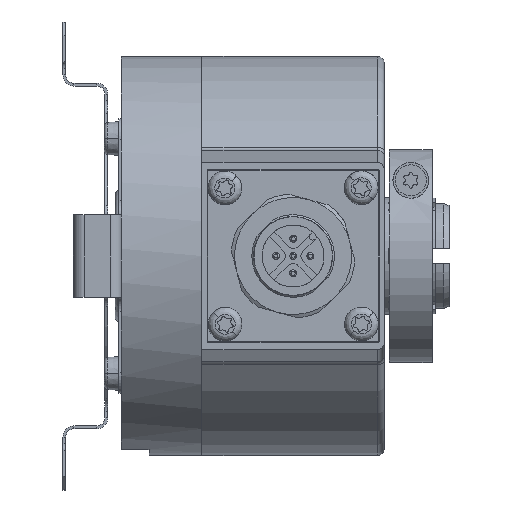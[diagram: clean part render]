
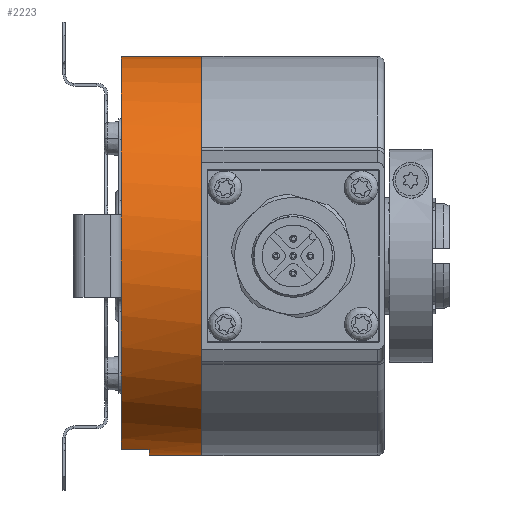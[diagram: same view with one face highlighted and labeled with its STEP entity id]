
A CAD part, front view. The second image highlights one B-rep face of the part: STEP entity #2223.
In plain terms, the highlighted cylindrical face has radius 29 mm (diameter 58 mm), a partial arc.
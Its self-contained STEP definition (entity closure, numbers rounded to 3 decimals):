
#185 = LINE ( 'NONE', #13243, #2526 ) ;
#904 = DIRECTION ( 'NONE',  ( 1., 0., 0. ) ) ;
#1261 = CARTESIAN_POINT ( 'NONE',  ( 8.068, 18.423, -28.142 ) ) ;
#1898 = EDGE_CURVE ( 'NONE', #12225, #5517, #24075, .T. ) ;
#2044 = EDGE_CURVE ( 'NONE', #8205, #7192, #185, .T. ) ;
#2099 = CARTESIAN_POINT ( 'NONE',  ( -3.622, 25.423, 0. ) ) ;
#2223 = ADVANCED_FACE ( 'NONE', ( #4463 ), #9741, .T. ) ;
#2509 = CARTESIAN_POINT ( 'NONE',  ( 0.378, 25.423, -29. ) ) ;
#2526 = VECTOR ( 'NONE', #13346, 1000. ) ;
#3186 = ORIENTED_EDGE ( 'NONE', *, *, #13324, .F. ) ;
#3296 = CARTESIAN_POINT ( 'NONE',  ( -3.622, 18.423, -28.142 ) ) ;
#4463 = FACE_OUTER_BOUND ( 'NONE', #16194, .T. ) ;
#5071 = EDGE_CURVE ( 'NONE', #8205, #15724, #15368, .T. ) ;
#5077 = ORIENTED_EDGE ( 'NONE', *, *, #11361, .T. ) ;
#5517 = VERTEX_POINT ( 'NONE', #21754 ) ;
#5742 = CARTESIAN_POINT ( 'NONE',  ( 0.378, 25.423, 0. ) ) ;
#7192 = VERTEX_POINT ( 'NONE', #23707 ) ;
#7318 = CARTESIAN_POINT ( 'NONE',  ( 8.068, 25.423, 0. ) ) ;
#7361 = DIRECTION ( 'NONE',  ( 0., 0., 1. ) ) ;
#8205 = VERTEX_POINT ( 'NONE', #10816 ) ;
#8239 = VECTOR ( 'NONE', #8888, 1000. ) ;
#8888 = DIRECTION ( 'NONE',  ( -1., 0., 0. ) ) ;
#9741 = CYLINDRICAL_SURFACE ( 'NONE', #14960, 29. ) ;
#9864 = CARTESIAN_POINT ( 'NONE',  ( 8.068, 25.423, 0. ) ) ;
#10363 = LINE ( 'NONE', #1261, #8239 ) ;
#10816 = CARTESIAN_POINT ( 'NONE',  ( -3.622, 25.423, 29. ) ) ;
#11153 = AXIS2_PLACEMENT_3D ( 'NONE', #7318, #11815, #23011 ) ;
#11361 = EDGE_CURVE ( 'NONE', #16115, #12225, #16073, .T. ) ;
#11779 = ORIENTED_EDGE ( 'NONE', *, *, #1898, .T. ) ;
#11815 = DIRECTION ( 'NONE',  ( 1., 0., 0. ) ) ;
#12152 = ORIENTED_EDGE ( 'NONE', *, *, #2044, .F. ) ;
#12225 = VERTEX_POINT ( 'NONE', #2509 ) ;
#12403 = CARTESIAN_POINT ( 'NONE',  ( 8.068, 25.423, -29. ) ) ;
#13243 = CARTESIAN_POINT ( 'NONE',  ( 8.068, 25.423, 29. ) ) ;
#13324 = EDGE_CURVE ( 'NONE', #16115, #15724, #10363, .T. ) ;
#13346 = DIRECTION ( 'NONE',  ( 1., 0., 0. ) ) ;
#14866 = ORIENTED_EDGE ( 'NONE', *, *, #19132, .F. ) ;
#14960 = AXIS2_PLACEMENT_3D ( 'NONE', #9864, #904, #17365 ) ;
#15368 = CIRCLE ( 'NONE', #17298, 29. ) ;
#15724 = VERTEX_POINT ( 'NONE', #3296 ) ;
#16073 = CIRCLE ( 'NONE', #19171, 29. ) ;
#16115 = VERTEX_POINT ( 'NONE', #23574 ) ;
#16194 = EDGE_LOOP ( 'NONE', ( #12152, #22416, #3186, #5077, #11779, #14866 ) ) ;
#16710 = DIRECTION ( 'NONE',  ( 1., 0., 0. ) ) ;
#17217 = DIRECTION ( 'NONE',  ( 1., 0., 0. ) ) ;
#17298 = AXIS2_PLACEMENT_3D ( 'NONE', #2099, #17217, #22661 ) ;
#17365 = DIRECTION ( 'NONE',  ( 0., 0., -1. ) ) ;
#18206 = CIRCLE ( 'NONE', #11153, 29. ) ;
#19132 = EDGE_CURVE ( 'NONE', #7192, #5517, #18206, .T. ) ;
#19171 = AXIS2_PLACEMENT_3D ( 'NONE', #5742, #16710, #7361 ) ;
#20608 = VECTOR ( 'NONE', #23704, 1000. ) ;
#21754 = CARTESIAN_POINT ( 'NONE',  ( 8.068, 25.423, -29. ) ) ;
#22416 = ORIENTED_EDGE ( 'NONE', *, *, #5071, .T. ) ;
#22661 = DIRECTION ( 'NONE',  ( 0., 0., -1. ) ) ;
#23011 = DIRECTION ( 'NONE',  ( 0., 0., -1. ) ) ;
#23574 = CARTESIAN_POINT ( 'NONE',  ( 0.378, 18.423, -28.142 ) ) ;
#23704 = DIRECTION ( 'NONE',  ( 1., 0., 0. ) ) ;
#23707 = CARTESIAN_POINT ( 'NONE',  ( 8.068, 25.423, 29. ) ) ;
#24075 = LINE ( 'NONE', #12403, #20608 ) ;
